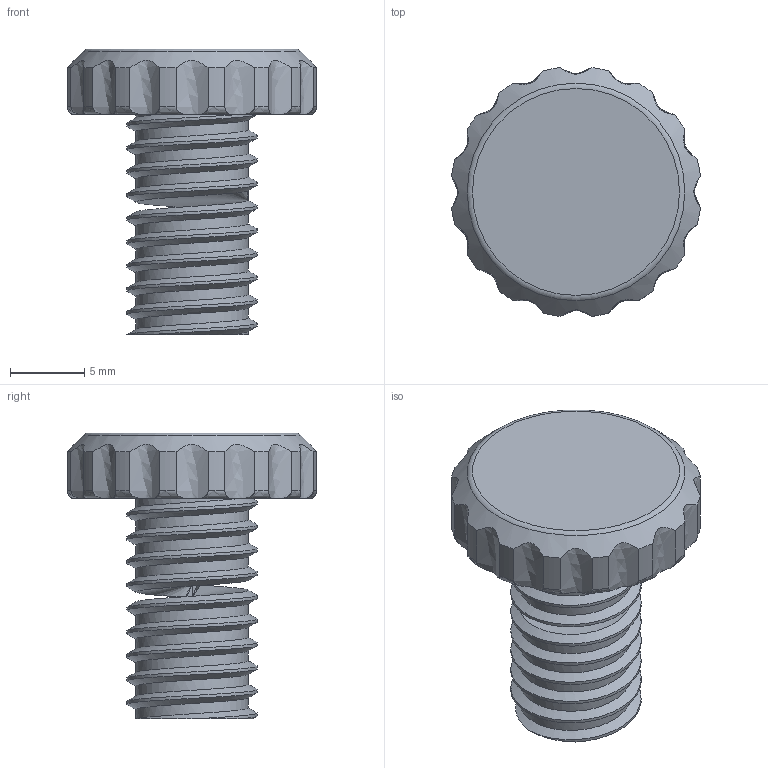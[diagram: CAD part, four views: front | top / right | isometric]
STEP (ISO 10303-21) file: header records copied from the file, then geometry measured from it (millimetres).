
FILE_DESCRIPTION(/* description */ (''),/* implementation_level */ '2;1');
FILE_NAME(/* name */ '/var/folders/ht/qky5zj9j3n573xqmjfh4ntjh0000gn/T/com.autodesk.mas.fusion360/Neutron/982326a0-2aca-4014-9146-a97f0426376e.stp',/* time_stamp */ '2018-06-10T10:25:58-07:00',/* author */ ('Printfutura'),/* organization */ (''),/* preprocessor_version */ 'ST-DEVELOPER v17',/* originating_system */ 'Autodesk Translation Framework v7.1.0.215',/* authorisation */ '');
FILE_SCHEMA (('AUTOMOTIVE_DESIGN { 1 0 10303 214 3 1 1 }'));
Length unit declared in the file: inch
Products named in the file (1): monogram_screw_customizer
Bounding box: 16.8 x 16.8 x 19.3 mm (x, y, z)
Volume: 1696.2 mm3; surface area: 1195.9 mm2
Topology: 1 solids, 1 shells, 94 faces, 270 edges, 179 vertices
Faces by surface type: cylinder 39, plane 19, bspline 18, torus 17, cone 1
Full cylindrical faces by diameter (mm): 7.6 x10, 8.804 x9
Entity records: 5507 total; most frequent: CARTESIAN_POINT 3302, ORIENTED_EDGE 540, DIRECTION 356, EDGE_CURVE 270, VERTEX_POINT 179, AXIS2_PLACEMENT_3D 151, B_SPLINE_CURVE_WITH_KNOTS 126, EDGE_LOOP 95
